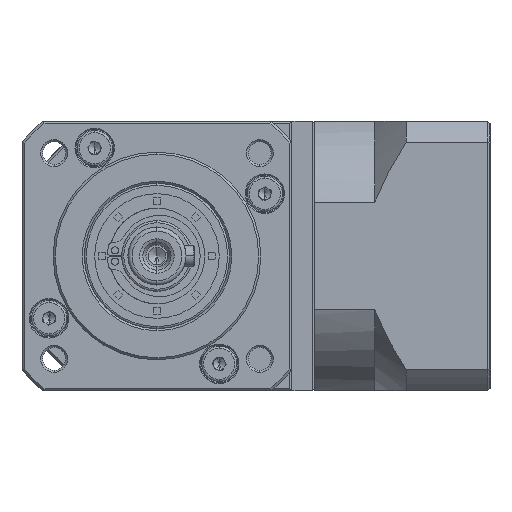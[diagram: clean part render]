
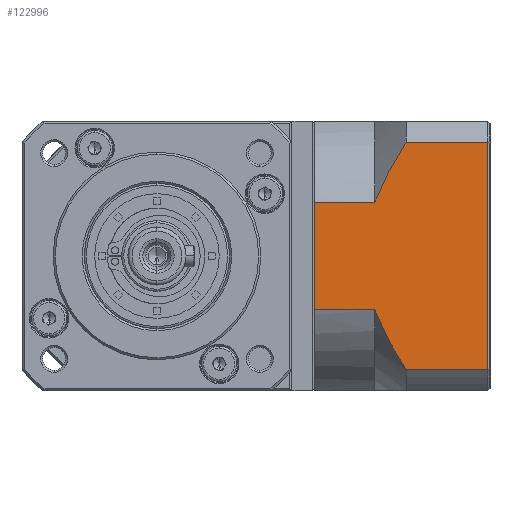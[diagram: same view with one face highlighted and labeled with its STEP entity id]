
A CAD part, left-side view. The second image highlights one B-rep face of the part: STEP entity #122996.
In plain terms, the highlighted planar face has unit normal (-1, 0, 0).
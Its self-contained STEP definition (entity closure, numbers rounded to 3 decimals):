
#2534 = CARTESIAN_POINT ( 'NONE',  ( -9.591, -71.321, -142.833 ) ) ;
#4221 = CARTESIAN_POINT ( 'NONE',  ( -9.591, -78.583, -156.586 ) ) ;
#5145 = VECTOR ( 'NONE', #87827, 1000. ) ;
#10028 = ORIENTED_EDGE ( 'NONE', *, *, #43597, .F. ) ;
#10576 = CARTESIAN_POINT ( 'NONE',  ( -9.591, -75.75, -106.438 ) ) ;
#13666 = FACE_OUTER_BOUND ( 'NONE', #144812, .T. ) ;
#13684 = DIRECTION ( 'NONE',  ( 0., 1., 0. ) ) ;
#13930 = EDGE_CURVE ( 'NONE', #89255, #162168, #56379, .T. ) ;
#17210 = LINE ( 'NONE', #18960, #51417 ) ;
#18960 = CARTESIAN_POINT ( 'NONE',  ( -9.591, -71.083, -101.814 ) ) ;
#23447 = CARTESIAN_POINT ( 'NONE',  ( -9.591, -73.17, -111.22 ) ) ;
#23807 = CARTESIAN_POINT ( 'NONE',  ( -9.591, -98.283, -101.814 ) ) ;
#25927 = CARTESIAN_POINT ( 'NONE',  ( -9.591, -56.583, -142.19 ) ) ;
#27226 = B_SPLINE_CURVE_WITH_KNOTS ( 'NONE', 3,
 ( #105119, #2534, #79365, #28273, #118094, #41228, #131049, #54132, #144017, #67010 ),
 .UNSPECIFIED., .F., .F.,
 ( 4, 2, 2, 2, 4 ),
 ( 0.101, 0.103, 0.105, 0.109, 0.117 ),
 .UNSPECIFIED. ) ;
#28273 = CARTESIAN_POINT ( 'NONE',  ( -9.591, -72.099, -144.733 ) ) ;
#29020 = VERTEX_POINT ( 'NONE', #82477 ) ;
#31789 = EDGE_CURVE ( 'NONE', #29020, #78318, #119458, .T. ) ;
#32422 = DIRECTION ( 'NONE',  ( 0., -1., 0. ) ) ;
#35295 = DIRECTION ( 'NONE',  ( 1., 0., 0. ) ) ;
#36420 = CARTESIAN_POINT ( 'NONE',  ( -9.591, -71.083, -116.21 ) ) ;
#38771 = VECTOR ( 'NONE', #80390, 1000. ) ;
#41228 = CARTESIAN_POINT ( 'NONE',  ( -9.591, -73.224, -147.211 ) ) ;
#43597 = EDGE_CURVE ( 'NONE', #156978, #104209, #48230, .T. ) ;
#46689 = EDGE_CURVE ( 'NONE', #89255, #78318, #17210, .T. ) ;
#48230 = LINE ( 'NONE', #77671, #78289 ) ;
#48811 = CARTESIAN_POINT ( 'NONE',  ( -9.591, -77.134, -104.103 ) ) ;
#49155 = DIRECTION ( 'NONE',  ( 0., 0., -1. ) ) ;
#51417 = VECTOR ( 'NONE', #32422, 1000. ) ;
#53405 = ORIENTED_EDGE ( 'NONE', *, *, #46689, .F. ) ;
#54020 = ORIENTED_EDGE ( 'NONE', *, *, #124779, .F. ) ;
#54132 = CARTESIAN_POINT ( 'NONE',  ( -9.591, -75.734, -152.004 ) ) ;
#56379 = B_SPLINE_CURVE_WITH_KNOTS ( 'NONE', 3,
 ( #87388, #138627, #48811, #10576, #100282, #23447, #113253, #36420 ),
 .UNSPECIFIED., .F., .F.,
 ( 4, 2, 2, 4 ),
 ( 0.058, 0.062, 0.066, 0.074 ),
 .UNSPECIFIED. ) ;
#59960 = CARTESIAN_POINT ( 'NONE',  ( -9.591, -71.083, -116.21 ) ) ;
#61082 = CARTESIAN_POINT ( 'NONE',  ( -9.591, -71.083, -142.19 ) ) ;
#61920 = DIRECTION ( 'NONE',  ( 0., 0., 1. ) ) ;
#64811 = ORIENTED_EDGE ( 'NONE', *, *, #13930, .T. ) ;
#67010 = CARTESIAN_POINT ( 'NONE',  ( -9.591, -78.583, -156.586 ) ) ;
#72859 = LINE ( 'NONE', #105053, #38771 ) ;
#76275 = EDGE_CURVE ( 'NONE', #106490, #104209, #122646, .T. ) ;
#77671 = CARTESIAN_POINT ( 'NONE',  ( -9.591, -71.083, -142.19 ) ) ;
#78289 = VECTOR ( 'NONE', #13684, 1000. ) ;
#78318 = VERTEX_POINT ( 'NONE', #23807 ) ;
#79365 = CARTESIAN_POINT ( 'NONE',  ( -9.591, -71.574, -143.471 ) ) ;
#80390 = DIRECTION ( 'NONE',  ( 0., 1., 0. ) ) ;
#82477 = CARTESIAN_POINT ( 'NONE',  ( -9.591, -98.283, -156.586 ) ) ;
#85245 = VECTOR ( 'NONE', #61920, 1000. ) ;
#87388 = CARTESIAN_POINT ( 'NONE',  ( -9.591, -78.583, -101.814 ) ) ;
#87654 = CARTESIAN_POINT ( 'NONE',  ( -9.591, -98.283, -161.7 ) ) ;
#87827 = DIRECTION ( 'NONE',  ( 0., -1., 0. ) ) ;
#89255 = VERTEX_POINT ( 'NONE', #111111 ) ;
#97745 = ORIENTED_EDGE ( 'NONE', *, *, #31789, .T. ) ;
#100282 = CARTESIAN_POINT ( 'NONE',  ( -9.591, -75.08, -107.624 ) ) ;
#103807 = AXIS2_PLACEMENT_3D ( 'NONE', #112112, #35295, #125096 ) ;
#104209 = VERTEX_POINT ( 'NONE', #25927 ) ;
#105053 = CARTESIAN_POINT ( 'NONE',  ( -9.591, -71.083, -156.586 ) ) ;
#105119 = CARTESIAN_POINT ( 'NONE',  ( -9.591, -71.083, -142.19 ) ) ;
#106490 = VERTEX_POINT ( 'NONE', #142840 ) ;
#106688 = EDGE_CURVE ( 'NONE', #106490, #162168, #107492, .T. ) ;
#107492 = LINE ( 'NONE', #151490, #5145 ) ;
#111111 = CARTESIAN_POINT ( 'NONE',  ( -9.591, -78.583, -101.814 ) ) ;
#112112 = CARTESIAN_POINT ( 'NONE',  ( -9.591, -98.783, -161.7 ) ) ;
#113038 = CARTESIAN_POINT ( 'NONE',  ( -9.591, -56.583, -161.7 ) ) ;
#113253 = CARTESIAN_POINT ( 'NONE',  ( -9.591, -72.025, -113.672 ) ) ;
#118094 = CARTESIAN_POINT ( 'NONE',  ( -9.591, -72.373, -145.357 ) ) ;
#119458 = LINE ( 'NONE', #87654, #85245 ) ;
#120416 = EDGE_CURVE ( 'NONE', #156978, #134361, #27226, .T. ) ;
#122646 = LINE ( 'NONE', #113038, #152949 ) ;
#122996 = ADVANCED_FACE ( 'NONE', ( #13666 ), #137479, .F. ) ;
#124779 = EDGE_CURVE ( 'NONE', #29020, #134361, #72859, .T. ) ;
#125096 = DIRECTION ( 'NONE',  ( 0., 1., 0. ) ) ;
#131049 = CARTESIAN_POINT ( 'NONE',  ( -9.591, -73.829, -148.423 ) ) ;
#134361 = VERTEX_POINT ( 'NONE', #4221 ) ;
#134738 = ORIENTED_EDGE ( 'NONE', *, *, #120416, .T. ) ;
#137479 = PLANE ( 'NONE',  #103807 ) ;
#138627 = CARTESIAN_POINT ( 'NONE',  ( -9.591, -77.85, -102.952 ) ) ;
#142840 = CARTESIAN_POINT ( 'NONE',  ( -9.591, -56.583, -116.21 ) ) ;
#144017 = CARTESIAN_POINT ( 'NONE',  ( -9.591, -77.121, -154.318 ) ) ;
#144812 = EDGE_LOOP ( 'NONE', ( #54020, #97745, #53405, #64811, #149944, #146426, #10028, #134738 ) ) ;
#146426 = ORIENTED_EDGE ( 'NONE', *, *, #76275, .T. ) ;
#149944 = ORIENTED_EDGE ( 'NONE', *, *, #106688, .F. ) ;
#151490 = CARTESIAN_POINT ( 'NONE',  ( -9.591, -71.083, -116.21 ) ) ;
#152949 = VECTOR ( 'NONE', #49155, 1000. ) ;
#156978 = VERTEX_POINT ( 'NONE', #61082 ) ;
#162168 = VERTEX_POINT ( 'NONE', #59960 ) ;
